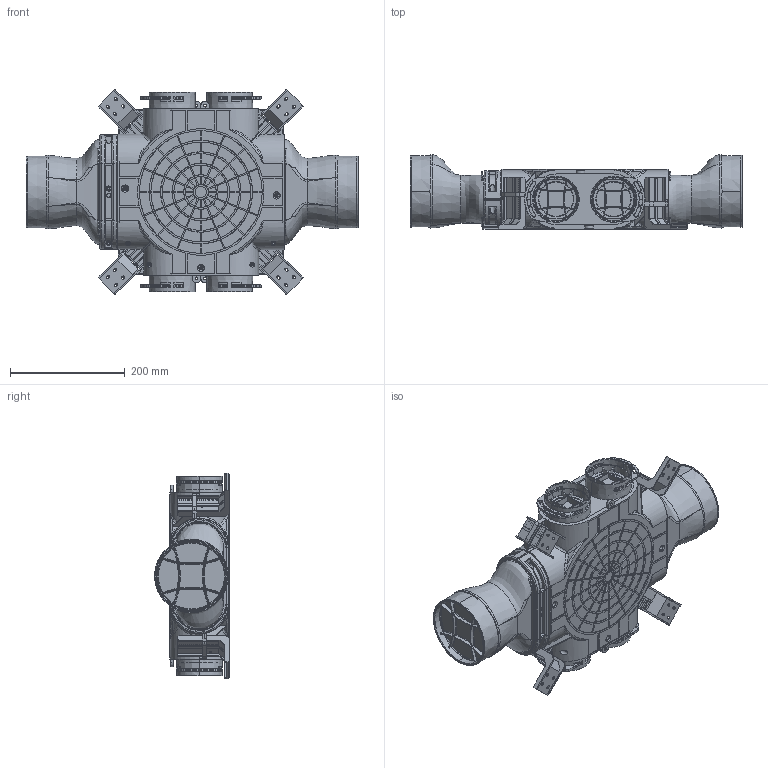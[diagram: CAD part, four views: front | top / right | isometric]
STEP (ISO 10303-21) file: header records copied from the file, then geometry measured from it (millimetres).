
FILE_DESCRIPTION((''),'2;1');
FILE_NAME('VCB125-4-P125_UPR_ASM','2025-12-29T15:49:07',('niepogodzinskij'),(''),'CREO PARAMETRIC BY PTC INC, 2025010','CREO PARAMETRIC BY PTC INC, 2025010','');
FILE_SCHEMA(('CONFIG_CONTROL_DESIGN'));
Products named in the file (7): 0VCBOP_OBUD_VCB_PELNA_1; 0VCBP75X2_1; 0VPEO_OBEJMA_1; 0VCBP125_PRZYLACZE125_1; 0VBWM_WSPORNIK_VPB_VCB_1; ASM0001_ASM_1_ASM; VCB125-4-P125_UPR_ASM
Assembly tree (13 placements, depth 3):
  VCB125-4-P125_UPR_ASM
    ASM0001_ASM_1_ASM
      0VCBOP_OBUD_VCB_PELNA_1  x2
      0VCBP75X2_1  x2
      0VPEO_OBEJMA_1  x2
      0VCBP125_PRZYLACZE125_1  x2
      0VBWM_WSPORNIK_VPB_VCB_1  x4
Bounding box: 578.1 x 129.83 x 357.57 mm (x, y, z)
Volume: 10348488.7 mm3; surface area: 1027593.3 mm2
Topology: 12 solids, 18 shells, 5168 faces, 13796 edges, 8574 vertices
Faces by surface type: plane 2068, cylinder 1124, torus 744, bspline 626, cone 418, sphere 172, extrusion 16
Entity records: 108515 total; most frequent: CARTESIAN_POINT 48628, ORIENTED_EDGE 12986, DIRECTION 12323, EDGE_CURVE 6493, AXIS2_PLACEMENT_3D 4878, VERTEX_POINT 4072, CIRCLE 2695, EDGE_LOOP 2587
